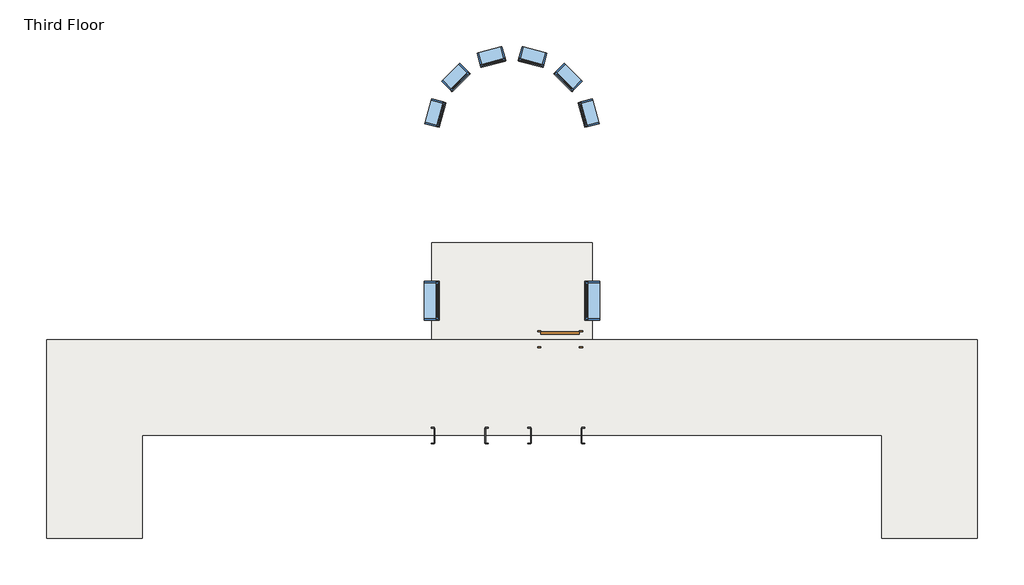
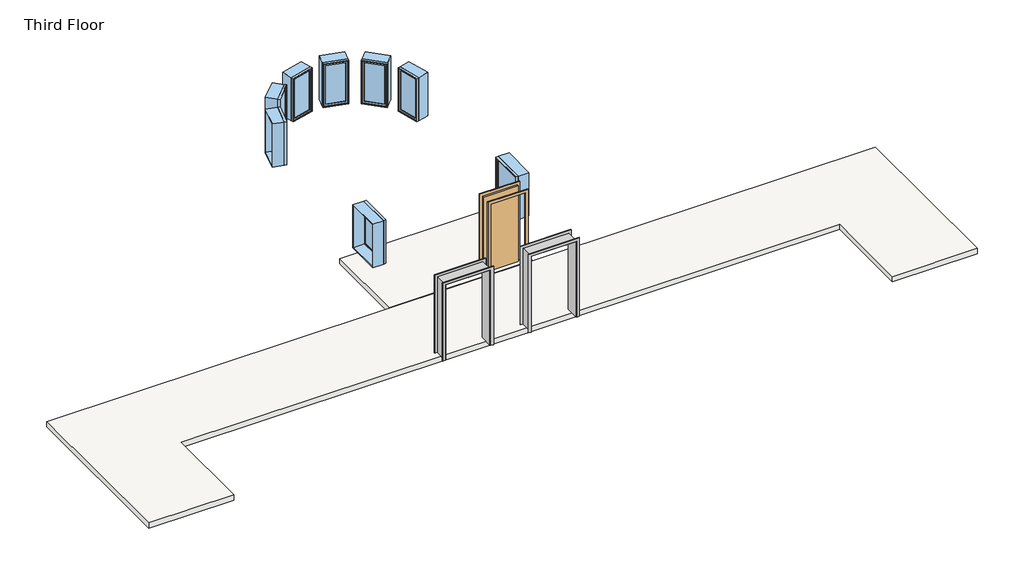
# One storey: 8 windows, 2 proxies, 2 slabs, 1 door.
"""IFC4 building model written with IfcOpenShell, lengths in millimetres."""

from ifc_helpers import new_model, si_unit, frame, origin, place, context, project, spatial, polyline, outline, extrude, transform, mapped, element, save
from components import m_passage_opening_cased_1220_x_2134mm_f04423fa, m_single_flush_0915_x_2134mm_1eac8bb1, m_fixed_0610_x_1220mm_2c28ef1d, m_fixed_0610_x_1220mm_1ea27827, m_fixed_0915_x_1220mm_bde29121

model = new_model("IFC4")

# Units and contexts
model_context = context("Model", 3, world=origin())
ifc_project = project(units=[si_unit("LENGTHUNIT", "METRE", prefix="MILLI")], contexts=[model_context])

# Site, building, storey
site = spatial("IfcSite", under=ifc_project)
building = spatial("IfcBuilding", under=site)
storey = spatial("IfcBuildingStorey", under=building, Name="Third Floor", Elevation=6096.0)

# Proxies
placement = place(None, origin())
m_passage_opening_cased_1220_x_2134mm_shape = m_passage_opening_cased_1220_x_2134mm_f04423fa(model_context)
element("IfcBuildingElementProxy", 1, Name="M_Passage Opening-Cased : 1220 x 2134mm", ObjectType="M_Passage Opening-Cased : 1220 x 2134mm", at=placement, inside=storey, context=model_context, shape_type="MappedRepresentation", body=[
    mapped(m_passage_opening_cased_1220_x_2134mm_shape, transform((3529.9038, -3050.7443399, 6096.0), x_axis=(-1.0, 0.0, 0.0), y_axis=(0.0, -1.0, 0.0), z_axis=(0.0, 0.0, 1.0))),
])
element("IfcBuildingElementProxy", 2, Name="M_Passage Opening-Cased : 1220 x 2134mm", ObjectType="M_Passage Opening-Cased : 1220 x 2134mm", at=placement, inside=storey, context=model_context, shape_type="MappedRepresentation", body=[
    mapped(m_passage_opening_cased_1220_x_2134mm_shape, transform((1260.2811134, -3050.7443399, 6096.0), x_axis=(1.0, 0.0, 0.0), y_axis=(0.0, 1.0, 0.0), z_axis=(0.0, 0.0, 1.0))),
])

# Door
m_single_flush_0915_x_2134mm_shape = m_single_flush_0915_x_2134mm_1eac8bb1(model_context)
element("IfcDoor", 3, ObjectType="M_Single-Flush : 0915 x 2134mm", at=placement, inside=storey, context=model_context, shape_type="MappedRepresentation", body=[
    mapped(m_single_flush_0915_x_2134mm_shape, transform((3632.0924567, -764.7443399, 6096.0), x_axis=(1.0, 0.0, 0.0), y_axis=(0.0, 1.0, 0.0), z_axis=(0.0, 0.0, 1.0))),
])

# Slabs
element("IfcSlab", 4, ObjectType="Generic 150mm", at=placement, inside=storey, context=model_context, shape_type="SweptSolid", body=[
    extrude(outline(polyline([(13528.0924567, -774.7443399), (13528.0924567, -5479.1443399), (11262.0924567, -5479.1443399), (11262.0924567, -3040.7443399), (-6283.9075433, -3040.7443399), (-6283.9075433, -5479.1443399), (-8549.9075433, -5479.1443399), (-8549.9075433, -774.7443399), (13528.0924567, -774.7443399)])), frame((0.0, 0.0, 5946.0), z_axis=(0.0, 0.0, 1.0), x_axis=(1.0, 0.0, 0.0)), (0.0, 0.0, 1.0), 150.0),
])
element("IfcSlab", 5, ObjectType="Generic 150mm", at=placement, inside=storey, context=model_context, shape_type="SweptSolid", body=[
    extrude(outline(polyline([(4394.0924567, -764.7443399), (584.0924567, -764.7443399), (584.0924567, 1521.2556601), (4394.0924567, 1521.2556601), (4394.0924567, -764.7443399)])), frame((0.0, 0.0, 5946.0), z_axis=(0.0, 0.0, 1.0), x_axis=(1.0, 0.0, 0.0)), (0.0, 0.0, 1.0), 150.0),
])

# Windows
m_fixed_0610_x_1220mm_shape = m_fixed_0610_x_1220mm_2c28ef1d(model_context)
element("IfcWindow", 6, ObjectType="M_Fixed : 0610 x 1220mm", at=placement, inside=storey, context=model_context, shape_type="MappedRepresentation", body=[
    mapped(m_fixed_0610_x_1220mm_shape, transform((658.1639152, 4602.8514842, 6096.0), x_axis=(-0.2588190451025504, -0.9659258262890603, 0.0), y_axis=(0.9659258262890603, -0.2588190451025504, 0.0), z_axis=(0.0, 0.0, 1.0))),
])
element("IfcWindow", 7, ObjectType="M_Fixed : 0610 x 1220mm", at=placement, inside=storey, context=model_context, shape_type="MappedRepresentation", body=[
    mapped(m_fixed_0610_x_1220mm_shape, transform((1998.4966326, 5943.1842016, 6096.0), x_axis=(-0.9659258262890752, -0.2588190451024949, 0.0), y_axis=(0.2588190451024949, -0.9659258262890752, 0.0), z_axis=(0.0, 0.0, 1.0))),
])
element("IfcWindow", 8, ObjectType="M_Fixed : 0610 x 1220mm", at=placement, inside=storey, context=model_context, shape_type="MappedRepresentation", body=[
    mapped(m_fixed_0610_x_1220mm_shape, transform((1148.7597393, 5452.5883775, 6096.0), x_axis=(-0.707106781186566, -0.7071067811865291, 0.0), y_axis=(0.7071067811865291, -0.707106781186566, 0.0), z_axis=(0.0, 0.0, 1.0))),
])
m_fixed_0610_x_1220mm_2_shape = m_fixed_0610_x_1220mm_1ea27827(model_context)
element("IfcWindow", 9, ObjectType="M_Fixed : 0610 x 1220mm", at=placement, inside=storey, context=model_context, shape_type="MappedRepresentation", body=[
    mapped(m_fixed_0610_x_1220mm_2_shape, transform((4320.0209983, 4602.8514842, 6096.0), x_axis=(0.2588190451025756, -0.9659258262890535, 0.0), y_axis=(0.9659258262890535, 0.2588190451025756, 0.0), z_axis=(0.0, 0.0, 1.0))),
])
element("IfcWindow", 10, ObjectType="M_Fixed : 0610 x 1220mm", at=placement, inside=storey, context=model_context, shape_type="MappedRepresentation", body=[
    mapped(m_fixed_0610_x_1220mm_2_shape, transform((2979.6882808, 5943.1842016, 6096.0), x_axis=(0.9659258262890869, -0.2588190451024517, 0.0), y_axis=(0.2588190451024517, 0.9659258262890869, 0.0), z_axis=(0.0, 0.0, 1.0))),
])
element("IfcWindow", 11, ObjectType="M_Fixed : 0610 x 1220mm", at=placement, inside=storey, context=model_context, shape_type="MappedRepresentation", body=[
    mapped(m_fixed_0610_x_1220mm_2_shape, transform((3829.4251742, 5452.5883775, 6096.0), x_axis=(0.7071067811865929, -0.7071067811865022, 0.0), y_axis=(0.7071067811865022, 0.7071067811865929, 0.0), z_axis=(0.0, 0.0, 1.0))),
])
m_fixed_0915_x_1220mm_shape = m_fixed_0915_x_1220mm_bde29121(model_context)
element("IfcWindow", 12, ObjectType="M_Fixed : 0915 x 1220mm", at=placement, inside=storey, context=model_context, shape_type="MappedRepresentation", body=[
    mapped(m_fixed_0915_x_1220mm_shape, transform((571.0924567, 150.2556601, 6096.0), x_axis=(0.0, -1.0, 0.0), y_axis=(1.0, 0.0, 0.0), z_axis=(0.0, 0.0, 1.0))),
])
element("IfcWindow", 13, ObjectType="M_Fixed : 0915 x 1220mm", at=placement, inside=storey, context=model_context, shape_type="MappedRepresentation", body=[
    mapped(m_fixed_0915_x_1220mm_shape, transform((4407.0924567, 150.2556601, 6096.0), x_axis=(0.0, 1.0, 0.0), y_axis=(-1.0, 0.0, 0.0), z_axis=(0.0, 0.0, 1.0))),
])

save(model, "model.ifc")
